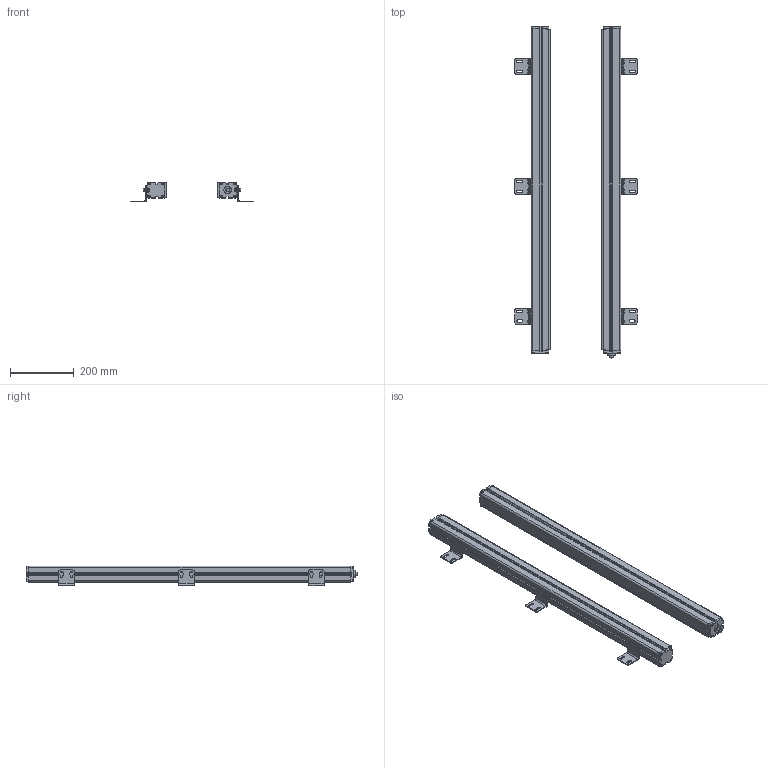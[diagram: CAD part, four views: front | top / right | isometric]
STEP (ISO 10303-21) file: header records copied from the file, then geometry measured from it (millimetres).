
FILE_DESCRIPTION( ( 'STEP AP203' ), '1' );
FILE_NAME( 'p:/temp/worker_12/2392_1444/app_70_02015061610154290864398192d056f_00_00_00_000/STEP/OY902S_2_03.stp', ' ', ( ' ' ), ( ' ' ), 'PSStep 15.0.47', 'PARTsolutions', ' ' );
FILE_SCHEMA( ( 'CONFIG_CONTROL_DESIGN' ) );
Length unit declared in the file: millimetre
Products named in the file (4): OY902S; _OY901S_part1; _OY901S_part2; _OY901S_part3
Assembly tree (8 placements, depth 2):
  OY902S
    _OY901S_part1
    _OY901S_part2  x6
    _OY901S_part3
Bounding box: 382 x 1038.5 x 62.33 mm (x, y, z)
Volume: 5647681 mm3; surface area: 617662.6 mm2
Topology: 8 solids, 8 shells, 1099 faces, 3128 edges, 2077 vertices
Faces by surface type: plane 700, cylinder 398, cone 1
Full cylindrical faces by diameter (mm): 3.242 x16, 6 x24, 7.5 x12, 10.5 x12, 12 x1, 23 x1
Entity records: 22639 total; most frequent: CARTESIAN_POINT 3994, DIRECTION 3888, ORIENTED_EDGE 3886, EDGE_CURVE 1943, LINE 1386, VECTOR 1386, VERTEX_POINT 1309, AXIS2_PLACEMENT_3D 1251
